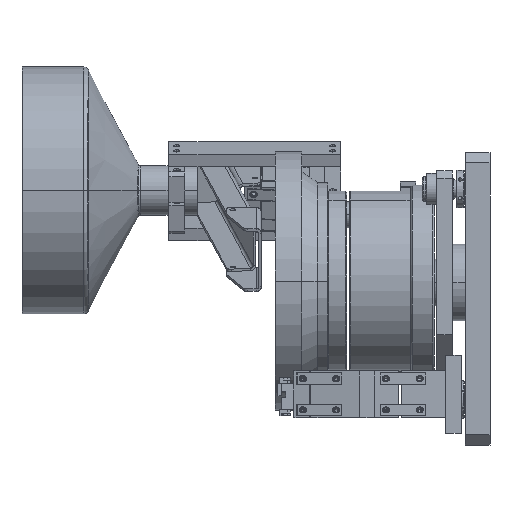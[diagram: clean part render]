
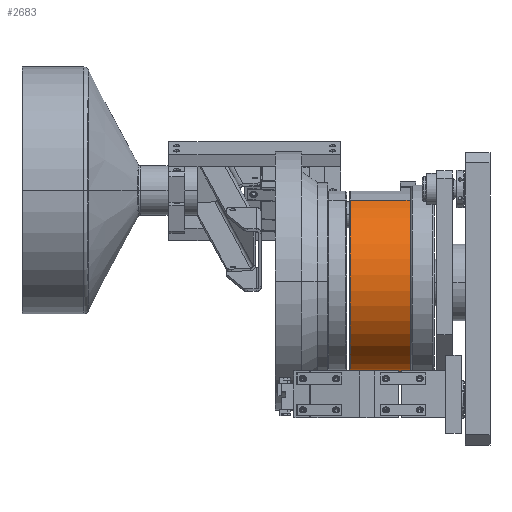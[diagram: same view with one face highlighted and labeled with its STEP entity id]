
A CAD part, left-side view. The second image highlights one B-rep face of the part: STEP entity #2683.
In plain terms, the highlighted cylindrical face has radius 69.5 mm (diameter 139 mm), a partial arc.
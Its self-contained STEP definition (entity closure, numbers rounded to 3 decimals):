
#2452=DIRECTION('',(0.,1.,0.));
#2453=VECTOR('',#2452,46.);
#2454=CARTESIAN_POINT('',(-69.5,0.5,
0.));
#2455=LINE('',#2454,#2453);
#2456=CARTESIAN_POINT('',(0.,46.5,0.));
#2457=DIRECTION('',(0.,1.,0.));
#2458=DIRECTION('',(1.,0.,0.));
#2459=AXIS2_PLACEMENT_3D('',#2456,#2457,#2458);
#2461=CARTESIAN_POINT('',(0.,0.5,0.));
#2462=DIRECTION('',(0.,-1.,0.));
#2463=DIRECTION('',(-1.,0.,0.));
#2464=AXIS2_PLACEMENT_3D('',#2461,#2462,#2463);
#2466=DIRECTION('',(0.,1.,0.));
#2467=VECTOR('',#2466,46.);
#2468=CARTESIAN_POINT('',(69.5,0.5,
0.));
#2469=LINE('',#2468,#2467);
#2498=CARTESIAN_POINT('',(69.5,46.5,0.));
#2499=CARTESIAN_POINT('',(-69.5,46.5,0.));
#2500=VERTEX_POINT('',#2498);
#2501=VERTEX_POINT('',#2499);
#2506=CARTESIAN_POINT('',(-69.5,0.5,0.));
#2507=CARTESIAN_POINT('',(69.5,0.5,0.));
#2508=VERTEX_POINT('',#2506);
#2509=VERTEX_POINT('',#2507);
#2671=CARTESIAN_POINT('',(0.,0.,0.));
#2672=DIRECTION('',(0.,1.,0.));
#2673=DIRECTION('',(1.,0.,0.));
#2674=AXIS2_PLACEMENT_3D('',#2671,#2672,#2673);
#2675=CYLINDRICAL_SURFACE('',#2674,69.5);
#2676=ORIENTED_EDGE('',*,*,#2636,.T.);
#2677=ORIENTED_EDGE('',*,*,#2666,.F.);
#2679=ORIENTED_EDGE('',*,*,#2678,.T.);
#2680=ORIENTED_EDGE('',*,*,#2662,.T.);
#2681=EDGE_LOOP('',(#2676,#2677,#2679,#2680));
#2682=FACE_OUTER_BOUND('',#2681,.F.);
#2683=ADVANCED_FACE('',(#2682),#2675,.T.);
#2460=CIRCLE('',#2459,69.5);
#2465=CIRCLE('',#2464,69.5);
#2636=EDGE_CURVE('',#2500,#2501,#2460,.T.);
#2662=EDGE_CURVE('',#2509,#2500,#2469,.T.);
#2666=EDGE_CURVE('',#2508,#2501,#2455,.T.);
#2678=EDGE_CURVE('',#2508,#2509,#2465,.T.);
